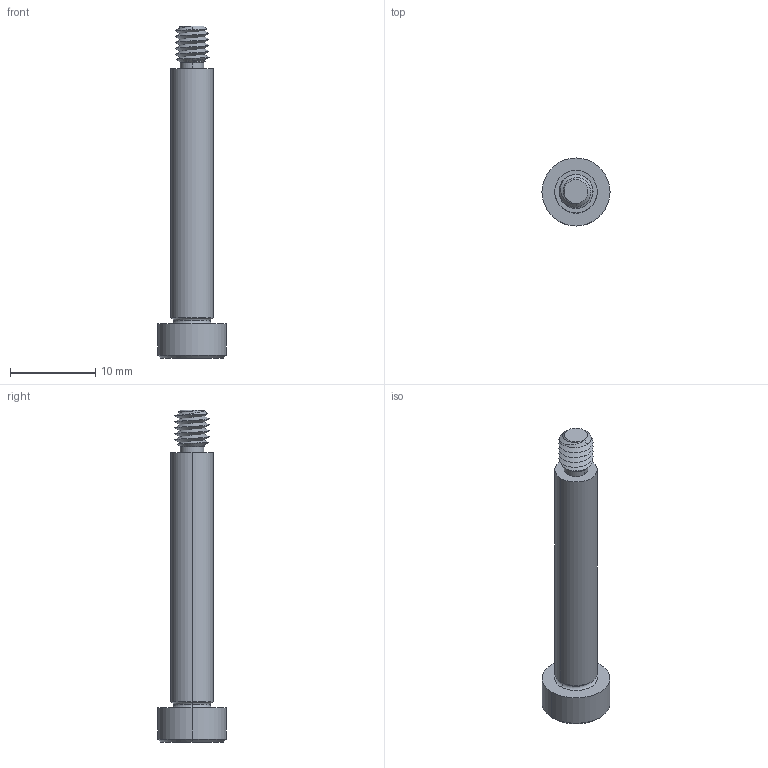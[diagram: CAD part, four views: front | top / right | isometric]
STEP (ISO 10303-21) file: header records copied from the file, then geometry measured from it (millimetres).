
FILE_DESCRIPTION (( 'STEP AP203' ), '1' );
FILE_NAME ('P0130.050-030-B2.step', '2021-11-09T21:16:58', ( '' ), ( '' ), 'SwSTEP 2.0', 'SolidWorks 2019', '' );
FILE_SCHEMA (( 'CONFIG_CONTROL_DESIGN' ));
Length unit declared in the file: millimetre
Products named in the file (1): P0130.050-030-B2
Bounding box: 8 x 8 x 39 mm (x, y, z)
Volume: 813.2 mm3; surface area: 786.7 mm2
Topology: 1 solids, 1 shells, 53 faces, 121 edges, 71 vertices
Faces by surface type: cylinder 16, plane 16, cone 15, torus 4, bspline 2
Entity records: 2151 total; most frequent: CARTESIAN_POINT 968, ORIENTED_EDGE 238, DIRECTION 226, EDGE_CURVE 119, AXIS2_PLACEMENT_3D 92, VERTEX_POINT 71, EDGE_LOOP 56, ADVANCED_FACE 53
